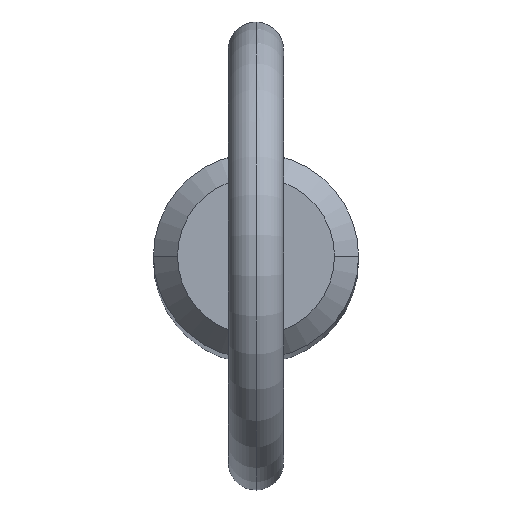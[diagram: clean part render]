
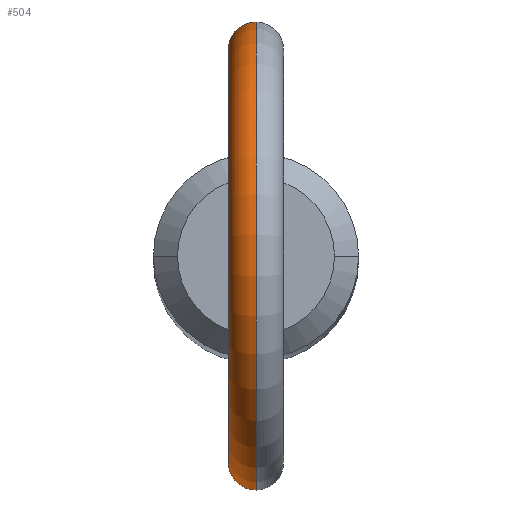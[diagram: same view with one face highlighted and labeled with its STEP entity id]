
A CAD part, top view. The second image highlights one B-rep face of the part: STEP entity #504.
In plain terms, the highlighted toroidal (fillet/blend) face has major radius 11.2 mm and minor radius 1.5 mm.
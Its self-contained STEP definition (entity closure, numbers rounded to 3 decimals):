
#2 = CARTESIAN_POINT ( 'NONE',  ( -0.976, 5.464, 128.631 ) ) ;
#3 = CARTESIAN_POINT ( 'NONE',  ( -0.107, -5.55, 128.277 ) ) ;
#7 = ORIENTED_EDGE ( 'NONE', *, *, #516, .T. ) ;
#9 = CARTESIAN_POINT ( 'NONE',  ( 0., -5.55, 131.745 ) ) ;
#12 = CARTESIAN_POINT ( 'NONE',  ( 0., 5.55, 131.745 ) ) ;
#20 = B_SPLINE_CURVE_WITH_KNOTS ( 'NONE', 3,
 ( #33, #109, #200, #396, #285, #403, #483, #162, #115, #400, #446, #287, #2, #201, #486, #156, #527, #394 ),
 .UNSPECIFIED., .F., .F.,
 ( 4, 2, 2, 2, 2, 2, 2, 2, 4 ),
 ( 0.006, 0.006, 0.007, 0.008, 0.009, 0.009, 0.01, 0.01, 0.011 ),
 .UNSPECIFIED. ) ;
#33 = CARTESIAN_POINT ( 'NONE',  ( 0., 5.55, 131.745 ) ) ;
#45 = CARTESIAN_POINT ( 'NONE',  ( -1.503, -5.343, 129.859 ) ) ;
#81 = CARTESIAN_POINT ( 'NONE',  ( -0.212, -5.547, 128.288 ) ) ;
#87 = CARTESIAN_POINT ( 'NONE',  ( -0.513, -5.527, 131.623 ) ) ;
#93 = EDGE_CURVE ( 'NONE', #401, #443, #188, .T. ) ;
#103 = VERTEX_POINT ( 'NONE', #413 ) ;
#109 = CARTESIAN_POINT ( 'NONE',  ( -0.213, 5.55, 131.745 ) ) ;
#115 = CARTESIAN_POINT ( 'NONE',  ( -1.486, 5.348, 129.538 ) ) ;
#118 = CARTESIAN_POINT ( 'NONE',  ( -1.26, -5.407, 128.942 ) ) ;
#120 = CARTESIAN_POINT ( 'NONE',  ( -0.523, -5.526, 128.366 ) ) ;
#126 = CARTESIAN_POINT ( 'NONE',  ( 0., 0., 139.7 ) ) ;
#128 = CARTESIAN_POINT ( 'NONE',  ( -0.416, -5.535, 131.667 ) ) ;
#139 = ORIENTED_EDGE ( 'NONE', *, *, #484, .F. ) ;
#143 = EDGE_LOOP ( 'NONE', ( #257, #197, #7, #139 ) ) ;
#147 = DIRECTION ( 'NONE',  ( 1., 0., 0. ) ) ;
#156 = CARTESIAN_POINT ( 'NONE',  ( -0.425, 5.537, 128.321 ) ) ;
#158 = VERTEX_POINT ( 'NONE', #12 ) ;
#159 = CARTESIAN_POINT ( 'NONE',  ( -1.294, -5.398, 130.786 ) ) ;
#162 = CARTESIAN_POINT ( 'NONE',  ( -1.509, 5.341, 129.755 ) ) ;
#164 = CARTESIAN_POINT ( 'NONE',  ( -1.054, -5.449, 128.704 ) ) ;
#165 = CARTESIAN_POINT ( 'NONE',  ( 0., 0., 139.7 ) ) ;
#167 = DIRECTION ( 'NONE',  ( 0., 0., -1. ) ) ;
#174 = DIRECTION ( 'NONE',  ( 0., 0., -1. ) ) ;
#183 = TOROIDAL_SURFACE ( 'NONE', #255, 11.2, 1.5 ) ;
#188 = CIRCLE ( 'NONE', #503, 12.7 ) ;
#197 = ORIENTED_EDGE ( 'NONE', *, *, #422, .F. ) ;
#199 = CARTESIAN_POINT ( 'NONE',  ( -1.485, -5.348, 130.179 ) ) ;
#200 = CARTESIAN_POINT ( 'NONE',  ( -0.425, 5.537, 131.677 ) ) ;
#201 = CARTESIAN_POINT ( 'NONE',  ( -0.807, 5.492, 128.506 ) ) ;
#205 = CARTESIAN_POINT ( 'NONE',  ( -1.477, -5.35, 129.542 ) ) ;
#207 = AXIS2_PLACEMENT_3D ( 'NONE', #319, #147, #388 ) ;
#213 = CARTESIAN_POINT ( 'NONE',  ( -0.106, -5.55, 131.745 ) ) ;
#243 = CARTESIAN_POINT ( 'NONE',  ( -1.195, -5.421, 130.971 ) ) ;
#255 = AXIS2_PLACEMENT_3D ( 'NONE', #126, #407, #167 ) ;
#257 = ORIENTED_EDGE ( 'NONE', *, *, #93, .F. ) ;
#285 = CARTESIAN_POINT ( 'NONE',  ( -0.941, 5.471, 131.307 ) ) ;
#286 = CARTESIAN_POINT ( 'NONE',  ( -0.42, -5.535, 128.332 ) ) ;
#287 = CARTESIAN_POINT ( 'NONE',  ( -1.055, 5.449, 128.705 ) ) ;
#292 = CARTESIAN_POINT ( 'NONE',  ( -1.5, -5.343, 129.753 ) ) ;
#319 = CARTESIAN_POINT ( 'NONE',  ( 0., 0., 139.7 ) ) ;
#322 = FACE_OUTER_BOUND ( 'NONE', #143, .T. ) ;
#325 = CARTESIAN_POINT ( 'NONE',  ( -0.939, -5.472, 131.31 ) ) ;
#327 = CARTESIAN_POINT ( 'NONE',  ( 0., -5.55, 128.277 ) ) ;
#331 = CARTESIAN_POINT ( 'NONE',  ( -1.362, -5.381, 129.132 ) ) ;
#332 = CARTESIAN_POINT ( 'NONE',  ( -1.44, -5.36, 130.387 ) ) ;
#334 = CIRCLE ( 'NONE', #207, 9.7 ) ;
#356 = CARTESIAN_POINT ( 'NONE',  ( 0., 5.55, 128.277 ) ) ;
#363 = CARTESIAN_POINT ( 'NONE',  ( -0.976, -5.464, 128.631 ) ) ;
#366 = CARTESIAN_POINT ( 'NONE',  ( -0.807, -5.492, 128.505 ) ) ;
#368 = DIRECTION ( 'NONE',  ( 1., 0., 0. ) ) ;
#381 = B_SPLINE_CURVE_WITH_KNOTS ( 'NONE', 3,
 ( #327, #3, #81, #286, #120, #491, #366, #363, #164, #118, #331, #395, #205, #292, #45, #199, #332, #159, #243, #325, #444, #87, #128, #455, #213, #9 ),
 .UNSPECIFIED., .F., .F.,
 ( 4, 2, 2, 2, 2, 2, 2, 2, 2, 2, 2, 2, 4 ),
 ( 0.01, 0.01, 0.01, 0.011, 0.011, 0.012, 0.012, 0.012, 0.013, 0.013, 0.014, 0.014, 0.015 ),
 .UNSPECIFIED. ) ;
#388 = DIRECTION ( 'NONE',  ( 0., 0., -1. ) ) ;
#394 = CARTESIAN_POINT ( 'NONE',  ( 0., 5.55, 128.277 ) ) ;
#395 = CARTESIAN_POINT ( 'NONE',  ( -1.455, -5.356, 129.436 ) ) ;
#396 = CARTESIAN_POINT ( 'NONE',  ( -0.786, 5.497, 131.457 ) ) ;
#400 = CARTESIAN_POINT ( 'NONE',  ( -1.363, 5.38, 129.134 ) ) ;
#401 = VERTEX_POINT ( 'NONE', #356 ) ;
#403 = CARTESIAN_POINT ( 'NONE',  ( -1.321, 5.397, 130.804 ) ) ;
#407 = DIRECTION ( 'NONE',  ( 1., 0., 0. ) ) ;
#413 = CARTESIAN_POINT ( 'NONE',  ( 0., -5.55, 131.745 ) ) ;
#422 = EDGE_CURVE ( 'NONE', #158, #401, #20, .T. ) ;
#443 = VERTEX_POINT ( 'NONE', #525 ) ;
#444 = CARTESIAN_POINT ( 'NONE',  ( -0.785, -5.497, 131.458 ) ) ;
#446 = CARTESIAN_POINT ( 'NONE',  ( -1.26, 5.407, 128.943 ) ) ;
#455 = CARTESIAN_POINT ( 'NONE',  ( -0.211, -5.547, 131.729 ) ) ;
#483 = CARTESIAN_POINT ( 'NONE',  ( -1.474, 5.351, 130.385 ) ) ;
#484 = EDGE_CURVE ( 'NONE', #443, #103, #381, .T. ) ;
#486 = CARTESIAN_POINT ( 'NONE',  ( -0.716, 5.504, 128.452 ) ) ;
#491 = CARTESIAN_POINT ( 'NONE',  ( -0.716, -5.504, 128.452 ) ) ;
#503 = AXIS2_PLACEMENT_3D ( 'NONE', #165, #368, #174 ) ;
#504 = ADVANCED_FACE ( 'NONE', ( #322 ), #183, .T. ) ;
#516 = EDGE_CURVE ( 'NONE', #158, #103, #334, .T. ) ;
#525 = CARTESIAN_POINT ( 'NONE',  ( 0., -5.55, 128.277 ) ) ;
#527 = CARTESIAN_POINT ( 'NONE',  ( -0.214, 5.55, 128.277 ) ) ;
